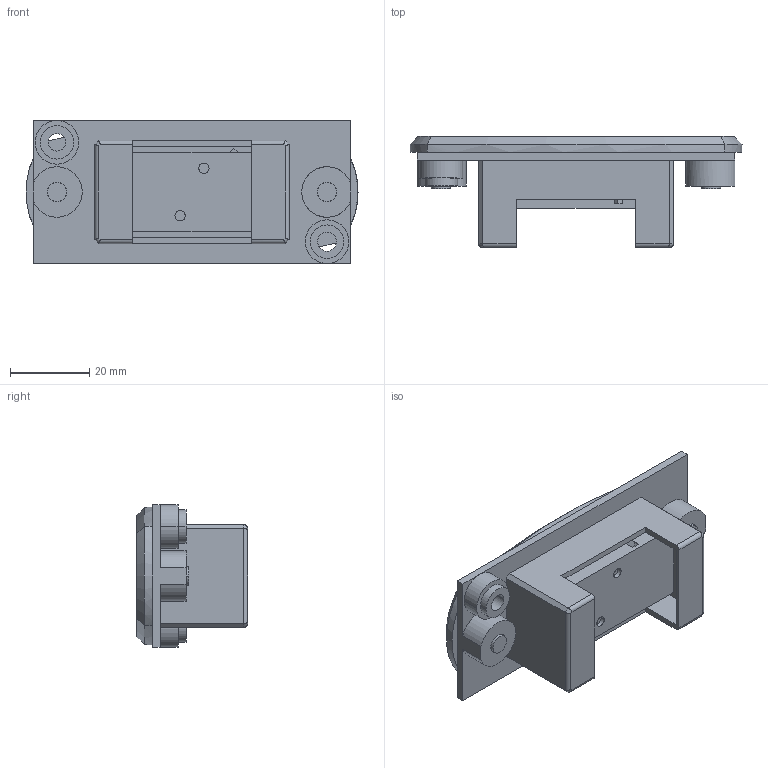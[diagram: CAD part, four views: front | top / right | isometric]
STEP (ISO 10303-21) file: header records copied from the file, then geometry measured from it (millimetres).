
FILE_DESCRIPTION((''),'2;1');
FILE_NAME('Z7-2_ASM','2016-06-03T',('lily'),(''),'PRO/ENGINEER BY PARAMETRIC TECHNOLOGY CORPORATION, 2014200','PRO/ENGINEER BY PARAMETRIC TECHNOLOGY CORPORATION, 2014200','');
FILE_SCHEMA(('CONFIG_CONTROL_DESIGN'));
Length unit declared in the file: metre
Products named in the file (2): MSBR-1; Z7-2_ASM
Assembly tree (1 placements, depth 2):
  Z7-2_ASM
    MSBR-1
Bounding box: 83.6 x 28 x 36 mm (x, y, z)
Volume: 29638.3 mm3; surface area: 18395.6 mm2
Topology: 1 solids, 3 shells, 247 faces, 671 edges, 440 vertices
Faces by surface type: cylinder 124, plane 87, cone 18, torus 18
Entity records: 8088 total; most frequent: DIRECTION 1503, CARTESIAN_POINT 1445, ORIENTED_EDGE 1342, EDGE_CURVE 671, AXIS2_PLACEMENT_3D 598, VERTEX_POINT 440, CIRCLE 348, VECTOR 307
